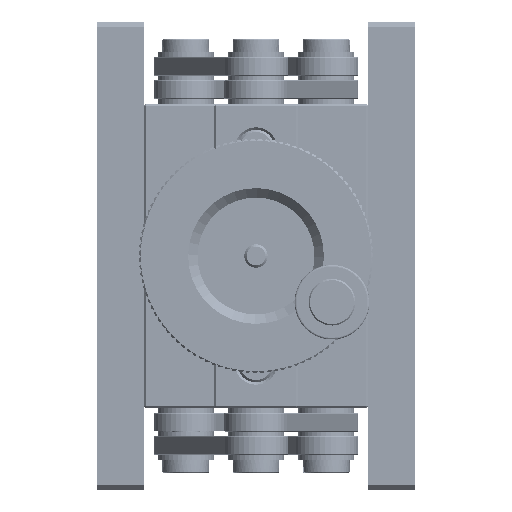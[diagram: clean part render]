
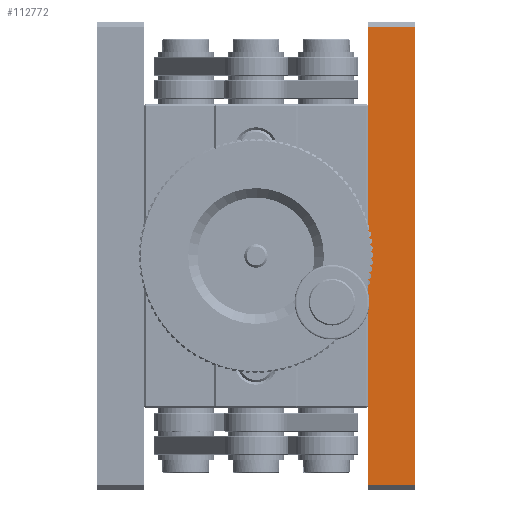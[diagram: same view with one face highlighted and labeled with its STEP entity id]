
A CAD part, left-side view. The second image highlights one B-rep face of the part: STEP entity #112772.
In plain terms, the highlighted planar face has unit normal (-1, 0, 0).
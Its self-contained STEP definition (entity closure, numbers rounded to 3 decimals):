
#3776 = CARTESIAN_POINT ( 'NONE',  ( 0., 10., -99. ) ) ;
#8363 = AXIS2_PLACEMENT_3D ( 'NONE', #97822, #100306, #233149 ) ;
#21904 = PLANE ( 'NONE',  #8363 ) ;
#32557 = CARTESIAN_POINT ( 'NONE',  ( 0., 0., -1. ) ) ;
#38916 = LINE ( 'NONE', #226601, #245702 ) ;
#43061 = FACE_OUTER_BOUND ( 'NONE', #223780, .T. ) ;
#47255 = CARTESIAN_POINT ( 'NONE',  ( 0., 10., 0. ) ) ;
#55820 = ORIENTED_EDGE ( 'NONE', *, *, #211449, .F. ) ;
#56246 = ORIENTED_EDGE ( 'NONE', *, *, #72904, .T. ) ;
#57838 = VECTOR ( 'NONE', #121656, 1000. ) ;
#62070 = VECTOR ( 'NONE', #175369, 1000. ) ;
#64417 = LINE ( 'NONE', #213556, #57838 ) ;
#72904 = EDGE_CURVE ( 'NONE', #125576, #146439, #64417, .T. ) ;
#86342 = CARTESIAN_POINT ( 'NONE',  ( 0., 10., -99. ) ) ;
#94951 = DIRECTION ( 'NONE',  ( 0., 0., 1. ) ) ;
#97822 = CARTESIAN_POINT ( 'NONE',  ( 0., 10., 0. ) ) ;
#99255 = CARTESIAN_POINT ( 'NONE',  ( 0., 10., -1. ) ) ;
#100306 = DIRECTION ( 'NONE',  ( 1., 0., 0. ) ) ;
#103265 = LINE ( 'NONE', #47255, #241543 ) ;
#107504 = EDGE_CURVE ( 'NONE', #170141, #133085, #212559, .T. ) ;
#112772 = ADVANCED_FACE ( 'NONE', ( #43061 ), #21904, .F. ) ;
#121656 = DIRECTION ( 'NONE',  ( 0., 1., 0. ) ) ;
#125576 = VERTEX_POINT ( 'NONE', #32557 ) ;
#133085 = VERTEX_POINT ( 'NONE', #183103 ) ;
#143488 = ORIENTED_EDGE ( 'NONE', *, *, #107504, .T. ) ;
#146439 = VERTEX_POINT ( 'NONE', #99255 ) ;
#147652 = EDGE_CURVE ( 'NONE', #133085, #125576, #38916, .T. ) ;
#170141 = VERTEX_POINT ( 'NONE', #86342 ) ;
#175369 = DIRECTION ( 'NONE',  ( 0., -1., 0. ) ) ;
#179026 = DIRECTION ( 'NONE',  ( 0., 0., 1. ) ) ;
#183103 = CARTESIAN_POINT ( 'NONE',  ( 0., 0., -99. ) ) ;
#211449 = EDGE_CURVE ( 'NONE', #170141, #146439, #103265, .T. ) ;
#212559 = LINE ( 'NONE', #3776, #62070 ) ;
#213556 = CARTESIAN_POINT ( 'NONE',  ( 0., 10., -1. ) ) ;
#223780 = EDGE_LOOP ( 'NONE', ( #243301, #56246, #55820, #143488 ) ) ;
#226601 = CARTESIAN_POINT ( 'NONE',  ( 0., 0., 0. ) ) ;
#233149 = DIRECTION ( 'NONE',  ( 0., 0., -1. ) ) ;
#241543 = VECTOR ( 'NONE', #179026, 1000. ) ;
#243301 = ORIENTED_EDGE ( 'NONE', *, *, #147652, .T. ) ;
#245702 = VECTOR ( 'NONE', #94951, 1000. ) ;
